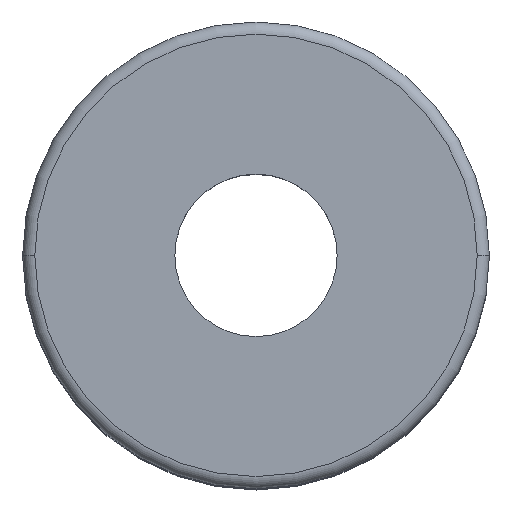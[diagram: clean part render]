
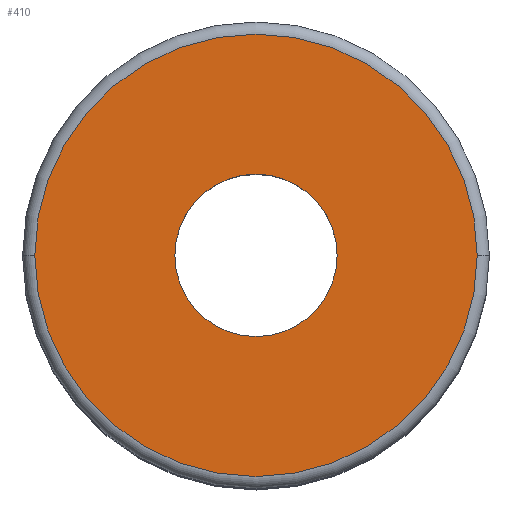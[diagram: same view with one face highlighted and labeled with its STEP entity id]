
A CAD part, top view. The second image highlights one B-rep face of the part: STEP entity #410.
In plain terms, the highlighted planar face has unit normal (0, 0, 1).
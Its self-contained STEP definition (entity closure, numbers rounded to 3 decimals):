
#57=CARTESIAN_POINT('',(0.,-35.75,9.1));
#58=DIRECTION('',(0.,0.,-1.));
#59=DIRECTION('',(1.,0.,0.));
#60=AXIS2_PLACEMENT_3D('',#57,#58,#59);
#62=CARTESIAN_POINT('',(0.,-35.75,9.1));
#63=DIRECTION('',(0.,0.,-1.));
#64=DIRECTION('',(-1.,0.,0.));
#65=AXIS2_PLACEMENT_3D('',#62,#63,#64);
#67=CARTESIAN_POINT('',(0.,-35.75,9.1));
#68=DIRECTION('',(0.,0.,1.));
#69=DIRECTION('',(-1.,0.,0.));
#70=AXIS2_PLACEMENT_3D('',#67,#68,#69);
#72=CARTESIAN_POINT('',(0.,-35.75,9.1));
#73=DIRECTION('',(0.,0.,1.));
#74=DIRECTION('',(1.,0.,0.));
#75=AXIS2_PLACEMENT_3D('',#72,#73,#74);
#246=CARTESIAN_POINT('',(2.,-35.75,9.1));
#247=CARTESIAN_POINT('',(-2.,-35.75,9.1));
#248=VERTEX_POINT('',#246);
#249=VERTEX_POINT('',#247);
#262=CARTESIAN_POINT('',(-5.45,-35.75,9.1));
#263=CARTESIAN_POINT('',(5.45,-35.75,9.1));
#264=VERTEX_POINT('',#262);
#265=VERTEX_POINT('',#263);
#394=CARTESIAN_POINT('',(0.,0.,9.1));
#395=DIRECTION('',(0.,0.,1.));
#396=DIRECTION('',(1.,0.,0.));
#397=AXIS2_PLACEMENT_3D('',#394,#395,#396);
#398=PLANE('',#397);
#400=ORIENTED_EDGE('',*,*,#399,.F.);
#401=ORIENTED_EDGE('',*,*,#384,.F.);
#402=EDGE_LOOP('',(#400,#401));
#403=FACE_OUTER_BOUND('',#402,.F.);
#405=ORIENTED_EDGE('',*,*,#404,.F.);
#407=ORIENTED_EDGE('',*,*,#406,.F.);
#408=EDGE_LOOP('',(#405,#407));
#409=FACE_BOUND('',#408,.F.);
#410=ADVANCED_FACE('',(#403,#409),#398,.T.);
#61=CIRCLE('',#60,2.);
#66=CIRCLE('',#65,2.);
#71=CIRCLE('',#70,5.45);
#76=CIRCLE('',#75,5.45);
#384=EDGE_CURVE('',#265,#264,#76,.T.);
#399=EDGE_CURVE('',#264,#265,#71,.T.);
#404=EDGE_CURVE('',#248,#249,#61,.T.);
#406=EDGE_CURVE('',#249,#248,#66,.T.);
